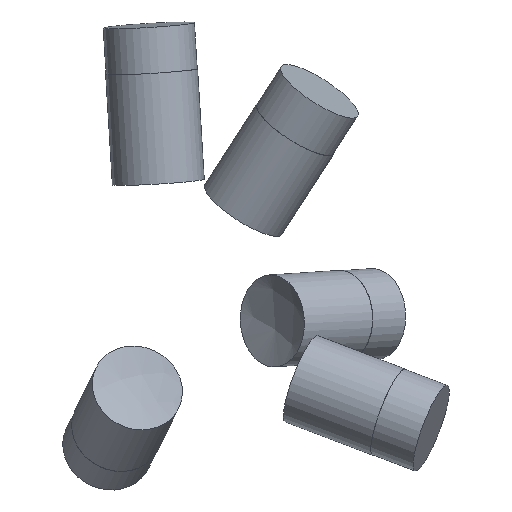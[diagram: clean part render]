
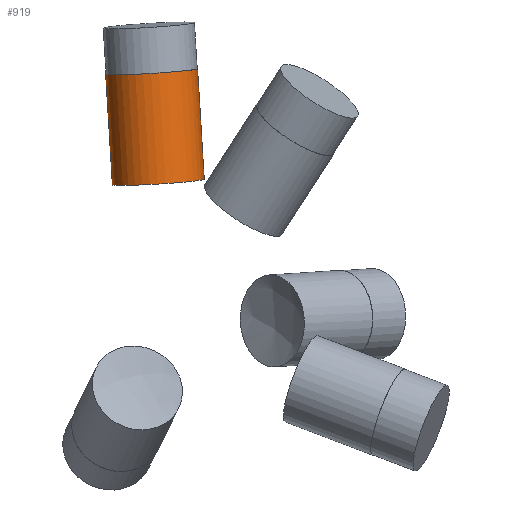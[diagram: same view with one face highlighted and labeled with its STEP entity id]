
A CAD part, isometric view. The second image highlights one B-rep face of the part: STEP entity #919.
In plain terms, the highlighted cylindrical face has radius 6 mm (diameter 12 mm), a full revolution.
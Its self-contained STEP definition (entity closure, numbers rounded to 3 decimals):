
#33 = SPHERICAL_SURFACE('',#34,20.);
#34 = AXIS2_PLACEMENT_3D('',#35,#36,#37);
#35 = CARTESIAN_POINT('',(0.,0.,0.));
#36 = DIRECTION('',(0.,0.,1.));
#37 = DIRECTION('',(1.,0.,-0.));
#591 = EDGE_CURVE('',#592,#592,#594,.T.);
#592 = VERTEX_POINT('',#593);
#593 = CARTESIAN_POINT('',(6.453,13.442,
    13.33));
#594 = SURFACE_CURVE('',#595,(#600,#683),.PCURVE_S1.);
#595 = CIRCLE('',#596,6.);
#596 = AXIS2_PLACEMENT_3D('',#597,#598,#599);
#597 = CARTESIAN_POINT('',(6.453,8.084,16.031)
  );
#598 = DIRECTION('',(0.338,0.424,0.84));
#599 = DIRECTION('',(0.,-0.893,0.45)
  );
#600 = PCURVE('',#33,#601);
#601 = DEFINITIONAL_REPRESENTATION('',(#602),#682);
#602 = B_SPLINE_CURVE_WITH_KNOTS('',8,(#603,#604,#605,#606,#607,#608,
    #609,#610,#611,#612,#613,#614,#615,#616,#617,#618,#619,#620,#621,
    #622,#623,#624,#625,#626,#627,#628,#629,#630,#631,#632,#633,#634,
    #635,#636,#637,#638,#639,#640,#641,#642,#643,#644,#645,#646,#647,
    #648,#649,#650,#651,#652,#653,#654,#655,#656,#657,#658,#659,#660,
    #661,#662,#663,#664,#665,#666,#667,#668,#669,#670,#671,#672,#673,
    #674,#675,#676,#677,#678,#679,#680,#681),.UNSPECIFIED.,.T.,.F.,(9,7,
    7,7,7,7,7,7,7,7,7,9),(3.142,3.927,4.614,
    5.216,5.479,5.725,5.956,
    6.39,6.769,7.433,8.429,
    9.425),.UNSPECIFIED.);
#603 = CARTESIAN_POINT('',(1.123,0.729));
#604 = CARTESIAN_POINT('',(1.159,0.741));
#605 = CARTESIAN_POINT('',(1.195,0.755));
#606 = CARTESIAN_POINT('',(1.229,0.772));
#607 = CARTESIAN_POINT('',(1.262,0.79));
#608 = CARTESIAN_POINT('',(1.293,0.81));
#609 = CARTESIAN_POINT('',(1.323,0.831));
#610 = CARTESIAN_POINT('',(1.351,0.854));
#611 = CARTESIAN_POINT('',(1.399,0.9));
#612 = CARTESIAN_POINT('',(1.419,0.923));
#613 = CARTESIAN_POINT('',(1.438,0.947));
#614 = CARTESIAN_POINT('',(1.454,0.971));
#615 = CARTESIAN_POINT('',(1.467,0.996));
#616 = CARTESIAN_POINT('',(1.477,1.021));
#617 = CARTESIAN_POINT('',(1.483,1.047));
#618 = CARTESIAN_POINT('',(1.484,1.095));
#619 = CARTESIAN_POINT('',(1.481,1.118));
#620 = CARTESIAN_POINT('',(1.474,1.14));
#621 = CARTESIAN_POINT('',(1.461,1.162));
#622 = CARTESIAN_POINT('',(1.442,1.184));
#623 = CARTESIAN_POINT('',(1.416,1.204));
#624 = CARTESIAN_POINT('',(1.381,1.224));
#625 = CARTESIAN_POINT('',(1.317,1.248));
#626 = CARTESIAN_POINT('',(1.295,1.256));
#627 = CARTESIAN_POINT('',(1.272,1.262));
#628 = CARTESIAN_POINT('',(1.247,1.269));
#629 = CARTESIAN_POINT('',(1.22,1.275));
#630 = CARTESIAN_POINT('',(1.191,1.28));
#631 = CARTESIAN_POINT('',(1.16,1.285));
#632 = CARTESIAN_POINT('',(1.098,1.293));
#633 = CARTESIAN_POINT('',(1.066,1.296));
#634 = CARTESIAN_POINT('',(1.033,1.299));
#635 = CARTESIAN_POINT('',(0.999,1.301));
#636 = CARTESIAN_POINT('',(0.965,1.302));
#637 = CARTESIAN_POINT('',(0.93,1.303));
#638 = CARTESIAN_POINT('',(0.895,1.303));
#639 = CARTESIAN_POINT('',(0.827,1.302));
#640 = CARTESIAN_POINT('',(0.795,1.3));
#641 = CARTESIAN_POINT('',(0.763,1.299));
#642 = CARTESIAN_POINT('',(0.732,1.296));
#643 = CARTESIAN_POINT('',(0.702,1.293));
#644 = CARTESIAN_POINT('',(0.673,1.29));
#645 = CARTESIAN_POINT('',(0.645,1.286));
#646 = CARTESIAN_POINT('',(0.569,1.274));
#647 = CARTESIAN_POINT('',(0.524,1.264));
#648 = CARTESIAN_POINT('',(0.485,1.253));
#649 = CARTESIAN_POINT('',(0.451,1.241));
#650 = CARTESIAN_POINT('',(0.422,1.228));
#651 = CARTESIAN_POINT('',(0.397,1.214));
#652 = CARTESIAN_POINT('',(0.377,1.199));
#653 = CARTESIAN_POINT('',(0.346,1.171));
#654 = CARTESIAN_POINT('',(0.335,1.158));
#655 = CARTESIAN_POINT('',(0.326,1.144));
#656 = CARTESIAN_POINT('',(0.319,1.13));
#657 = CARTESIAN_POINT('',(0.314,1.116));
#658 = CARTESIAN_POINT('',(0.312,1.102));
#659 = CARTESIAN_POINT('',(0.31,1.087));
#660 = CARTESIAN_POINT('',(0.312,1.048));
#661 = CARTESIAN_POINT('',(0.317,1.023));
#662 = CARTESIAN_POINT('',(0.326,0.999));
#663 = CARTESIAN_POINT('',(0.339,0.975));
#664 = CARTESIAN_POINT('',(0.354,0.951));
#665 = CARTESIAN_POINT('',(0.371,0.928));
#666 = CARTESIAN_POINT('',(0.39,0.906));
#667 = CARTESIAN_POINT('',(0.443,0.854));
#668 = CARTESIAN_POINT('',(0.478,0.824));
#669 = CARTESIAN_POINT('',(0.517,0.797));
#670 = CARTESIAN_POINT('',(0.559,0.773));
#671 = CARTESIAN_POINT('',(0.602,0.753));
#672 = CARTESIAN_POINT('',(0.647,0.735));
#673 = CARTESIAN_POINT('',(0.693,0.721));
#674 = CARTESIAN_POINT('',(0.788,0.7));
#675 = CARTESIAN_POINT('',(0.836,0.693));
#676 = CARTESIAN_POINT('',(0.885,0.69));
#677 = CARTESIAN_POINT('',(0.934,0.69));
#678 = CARTESIAN_POINT('',(0.982,0.695));
#679 = CARTESIAN_POINT('',(1.03,0.703));
#680 = CARTESIAN_POINT('',(1.077,0.714));
#681 = CARTESIAN_POINT('',(1.123,0.729));
#682 = ( GEOMETRIC_REPRESENTATION_CONTEXT(2) 
PARAMETRIC_REPRESENTATION_CONTEXT() REPRESENTATION_CONTEXT('2D SPACE',''
  ) );
#683 = PCURVE('',#684,#689);
#684 = CYLINDRICAL_SURFACE('',#685,6.);
#685 = AXIS2_PLACEMENT_3D('',#686,#687,#688);
#686 = CARTESIAN_POINT('',(0.,0.,0.));
#687 = DIRECTION('',(0.338,0.424,0.84));
#688 = DIRECTION('',(0.,0.893,-0.45)
  );
#689 = DEFINITIONAL_REPRESENTATION('',(#690),#694);
#690 = LINE('',#691,#692);
#691 = CARTESIAN_POINT('',(-3.142,19.079));
#692 = VECTOR('',#693,1.);
#693 = DIRECTION('',(1.,0.));
#694 = ( GEOMETRIC_REPRESENTATION_CONTEXT(2) 
PARAMETRIC_REPRESENTATION_CONTEXT() REPRESENTATION_CONTEXT('2D SPACE',''
  ) );
#919 = ADVANCED_FACE('',(#920),#684,.T.);
#920 = FACE_BOUND('',#921,.T.);
#921 = EDGE_LOOP('',(#922,#945,#972,#973));
#922 = ORIENTED_EDGE('',*,*,#923,.T.);
#923 = EDGE_CURVE('',#592,#924,#926,.T.);
#924 = VERTEX_POINT('',#925);
#925 = CARTESIAN_POINT('',(11.342,19.566,
    25.474));
#926 = SEAM_CURVE('',#927,(#931,#938),.PCURVE_S1.);
#927 = LINE('',#928,#929);
#928 = CARTESIAN_POINT('',(0.,5.357,
    -2.702));
#929 = VECTOR('',#930,1.);
#930 = DIRECTION('',(0.338,0.424,0.84));
#931 = PCURVE('',#684,#932);
#932 = DEFINITIONAL_REPRESENTATION('',(#933),#937);
#933 = LINE('',#934,#935);
#934 = CARTESIAN_POINT('',(6.283,-0.));
#935 = VECTOR('',#936,1.);
#936 = DIRECTION('',(0.,1.));
#937 = ( GEOMETRIC_REPRESENTATION_CONTEXT(2) 
PARAMETRIC_REPRESENTATION_CONTEXT() REPRESENTATION_CONTEXT('2D SPACE',''
  ) );
#938 = PCURVE('',#684,#939);
#939 = DEFINITIONAL_REPRESENTATION('',(#940),#944);
#940 = LINE('',#941,#942);
#941 = CARTESIAN_POINT('',(0.,-0.));
#942 = VECTOR('',#943,1.);
#943 = DIRECTION('',(0.,1.));
#944 = ( GEOMETRIC_REPRESENTATION_CONTEXT(2) 
PARAMETRIC_REPRESENTATION_CONTEXT() REPRESENTATION_CONTEXT('2D SPACE',''
  ) );
#945 = ORIENTED_EDGE('',*,*,#946,.F.);
#946 = EDGE_CURVE('',#924,#924,#947,.T.);
#947 = SURFACE_CURVE('',#948,(#953,#960),.PCURVE_S1.);
#948 = CIRCLE('',#949,6.);
#949 = AXIS2_PLACEMENT_3D('',#950,#951,#952);
#950 = CARTESIAN_POINT('',(11.342,14.209,
    28.176));
#951 = DIRECTION('',(0.338,0.424,0.84));
#952 = DIRECTION('',(0.,0.893,-0.45)
  );
#953 = PCURVE('',#684,#954);
#954 = DEFINITIONAL_REPRESENTATION('',(#955),#959);
#955 = LINE('',#956,#957);
#956 = CARTESIAN_POINT('',(0.,33.533));
#957 = VECTOR('',#958,1.);
#958 = DIRECTION('',(1.,0.));
#959 = ( GEOMETRIC_REPRESENTATION_CONTEXT(2) 
PARAMETRIC_REPRESENTATION_CONTEXT() REPRESENTATION_CONTEXT('2D SPACE',''
  ) );
#960 = PCURVE('',#961,#966);
#961 = PLANE('',#962);
#962 = AXIS2_PLACEMENT_3D('',#963,#964,#965);
#963 = CARTESIAN_POINT('',(11.342,14.209,
    28.176));
#964 = DIRECTION('',(0.338,0.424,0.84));
#965 = DIRECTION('',(0.,0.893,-0.45)
  );
#966 = DEFINITIONAL_REPRESENTATION('',(#967),#971);
#967 = CIRCLE('',#968,6.);
#968 = AXIS2_PLACEMENT_2D('',#969,#970);
#969 = CARTESIAN_POINT('',(0.,0.));
#970 = DIRECTION('',(1.,0.));
#971 = ( GEOMETRIC_REPRESENTATION_CONTEXT(2) 
PARAMETRIC_REPRESENTATION_CONTEXT() REPRESENTATION_CONTEXT('2D SPACE',''
  ) );
#972 = ORIENTED_EDGE('',*,*,#923,.F.);
#973 = ORIENTED_EDGE('',*,*,#591,.T.);
